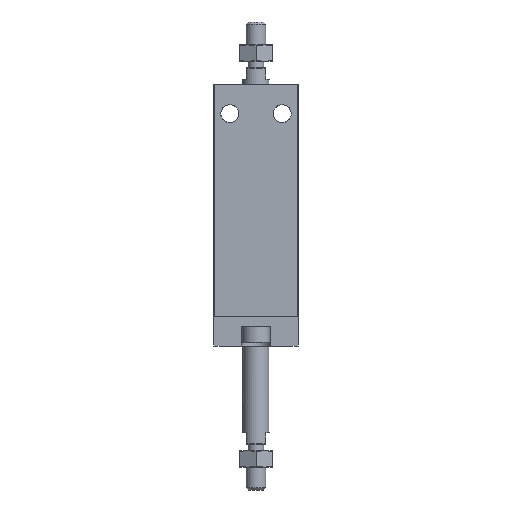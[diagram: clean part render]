
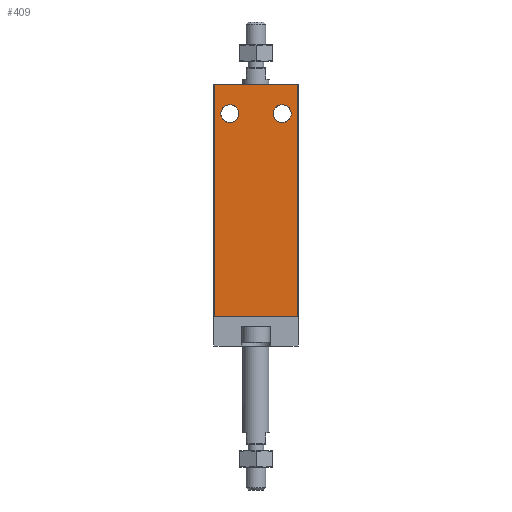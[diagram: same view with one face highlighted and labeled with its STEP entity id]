
A CAD part, front view. The second image highlights one B-rep face of the part: STEP entity #409.
In plain terms, the highlighted planar face has unit normal (0, -1, 0).
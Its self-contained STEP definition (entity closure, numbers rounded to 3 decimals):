
#409 = ADVANCED_FACE( '', ( #922, #923, #924 ), #925, .T. );
#922 = FACE_BOUND( '', #1614, .T. );
#923 = FACE_BOUND( '', #1615, .T. );
#924 = FACE_OUTER_BOUND( '', #1616, .T. );
#925 = PLANE( '', #1617 );
#1614 = EDGE_LOOP( '', ( #2562 ) );
#1615 = EDGE_LOOP( '', ( #2563 ) );
#1616 = EDGE_LOOP( '', ( #2564, #2565, #2566, #2567 ) );
#1617 = AXIS2_PLACEMENT_3D( '', #2568, #2569, #2570 );
#2562 = ORIENTED_EDGE( '', *, *, #4050, .F. );
#2563 = ORIENTED_EDGE( '', *, *, #4051, .F. );
#2564 = ORIENTED_EDGE( '', *, *, #4052, .F. );
#2565 = ORIENTED_EDGE( '', *, *, #4053, .F. );
#2566 = ORIENTED_EDGE( '', *, *, #4054, .T. );
#2567 = ORIENTED_EDGE( '', *, *, #3793, .T. );
#2568 = CARTESIAN_POINT( '', ( -12.8, -20., -71. ) );
#2569 = DIRECTION( '', ( 0., -1., 0. ) );
#2570 = DIRECTION( '', ( 0., 0., -1. ) );
#3793 = EDGE_CURVE( '', #4432, #4429, #4433, .T. );
#4050 = EDGE_CURVE( '', #4867, #4867, #4868, .T. );
#4051 = EDGE_CURVE( '', #4869, #4869, #4870, .T. );
#4052 = EDGE_CURVE( '', #4871, #4429, #4872, .T. );
#4053 = EDGE_CURVE( '', #4873, #4871, #4874, .T. );
#4054 = EDGE_CURVE( '', #4873, #4432, #4875, .T. );
#4429 = VERTEX_POINT( '', #5372 );
#4432 = VERTEX_POINT( '', #5375 );
#4433 = LINE( '', #5376, #5377 );
#4867 = VERTEX_POINT( '', #6382 );
#4868 = CIRCLE( '', #6383, 2.75 );
#4869 = VERTEX_POINT( '', #6384 );
#4870 = CIRCLE( '', #6385, 2.75 );
#4871 = VERTEX_POINT( '', #6386 );
#4872 = LINE( '', #6387, #6388 );
#4873 = VERTEX_POINT( '', #6389 );
#4874 = LINE( '', #6390, #6391 );
#4875 = LINE( '', #6392, #6393 );
#5372 = CARTESIAN_POINT( '', ( 12.8, -20., 0. ) );
#5375 = CARTESIAN_POINT( '', ( 12.8, -20., -71. ) );
#5376 = CARTESIAN_POINT( '', ( 12.8, -20., -71. ) );
#5377 = VECTOR( '', #7481, 1000. );
#6382 = CARTESIAN_POINT( '', ( -8., -20., -11.75 ) );
#6383 = AXIS2_PLACEMENT_3D( '', #7747, #7748, #7749 );
#6384 = CARTESIAN_POINT( '', ( 10.75, -20., -9. ) );
#6385 = AXIS2_PLACEMENT_3D( '', #7750, #7751, #7752 );
#6386 = CARTESIAN_POINT( '', ( -12.8, -20., 0. ) );
#6387 = CARTESIAN_POINT( '', ( -12.8, -20., 0. ) );
#6388 = VECTOR( '', #7753, 1000. );
#6389 = CARTESIAN_POINT( '', ( -12.8, -20., -71. ) );
#6390 = CARTESIAN_POINT( '', ( -12.8, -20., -71. ) );
#6391 = VECTOR( '', #7754, 1000. );
#6392 = CARTESIAN_POINT( '', ( -12.8, -20., -71. ) );
#6393 = VECTOR( '', #7755, 1000. );
#7481 = DIRECTION( '', ( 0., 0., 1. ) );
#7747 = CARTESIAN_POINT( '', ( -8., -20., -9. ) );
#7748 = DIRECTION( '', ( 0., -1., 0. ) );
#7749 = DIRECTION( '', ( 0., 0., -1. ) );
#7750 = CARTESIAN_POINT( '', ( 8., -20., -9. ) );
#7751 = DIRECTION( '', ( 0., -1., 0. ) );
#7752 = DIRECTION( '', ( 1., 0., 0. ) );
#7753 = DIRECTION( '', ( 1., 0., 0. ) );
#7754 = DIRECTION( '', ( 0., 0., 1. ) );
#7755 = DIRECTION( '', ( 1., 0., 0. ) );
